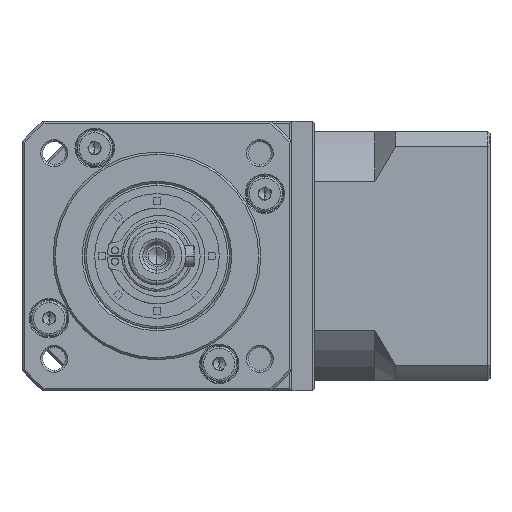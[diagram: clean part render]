
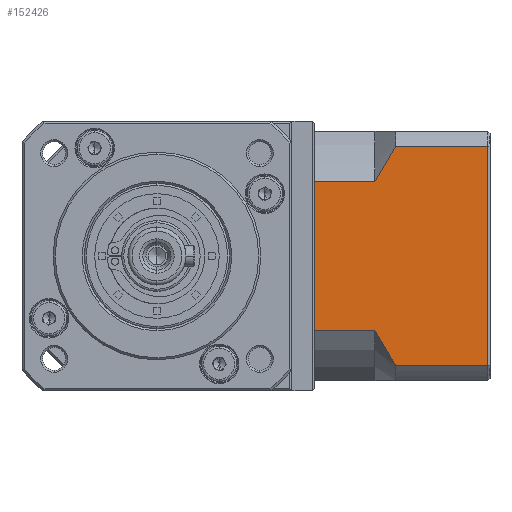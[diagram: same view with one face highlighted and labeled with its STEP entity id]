
A CAD part, left-side view. The second image highlights one B-rep face of the part: STEP entity #152426.
In plain terms, the highlighted planar face has unit normal (-1, 0, 0).
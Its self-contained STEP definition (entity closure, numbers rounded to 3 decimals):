
#3938 = CARTESIAN_POINT ( 'NONE',  ( -27.429, -66.234, -135.581 ) ) ;
#5166 = CARTESIAN_POINT ( 'NONE',  ( -27.429, -71.234, -91.095 ) ) ;
#7480 = LINE ( 'NONE', #126801, #37623 ) ;
#9024 = ORIENTED_EDGE ( 'NONE', *, *, #156918, .T. ) ;
#13133 = ORIENTED_EDGE ( 'NONE', *, *, #125260, .T. ) ;
#16891 = CARTESIAN_POINT ( 'NONE',  ( -27.429, -70.332, -142.648 ) ) ;
#27861 = EDGE_CURVE ( 'NONE', #142819, #131239, #56359, .T. ) ;
#28185 = AXIS2_PLACEMENT_3D ( 'NONE', #113704, #36679, #126611 ) ;
#31581 = CARTESIAN_POINT ( 'NONE',  ( -27.429, -66.234, -99.525 ) ) ;
#33004 = EDGE_CURVE ( 'NONE', #114003, #81299, #131226, .T. ) ;
#34861 = ORIENTED_EDGE ( 'NONE', *, *, #60358, .F. ) ;
#36593 = CARTESIAN_POINT ( 'NONE',  ( -27.429, -66.234, -144.01 ) ) ;
#36679 = DIRECTION ( 'NONE',  ( 1., 0., 0. ) ) ;
#36939 = EDGE_LOOP ( 'NONE', ( #34861, #160031, #48910, #13133, #126390, #9024, #123250, #75948 ) ) ;
#37623 = VECTOR ( 'NONE', #62768, 1000. ) ;
#41064 = VECTOR ( 'NONE', #158373, 1000. ) ;
#42228 = CARTESIAN_POINT ( 'NONE',  ( -27.429, -66.984, -137.037 ) ) ;
#42967 = LINE ( 'NONE', #36593, #111297 ) ;
#48910 = ORIENTED_EDGE ( 'NONE', *, *, #33004, .F. ) ;
#54501 = DIRECTION ( 'NONE',  ( 0., 1., 0. ) ) ;
#54960 = CARTESIAN_POINT ( 'NONE',  ( -27.429, -51.734, -99.525 ) ) ;
#56359 = B_SPLINE_CURVE_WITH_KNOTS ( 'NONE', 3,
 ( #3938, #42228, #145067, #93993, #16891, #106867 ),
 .UNSPECIFIED., .F., .F.,
 ( 4, 2, 4 ),
 ( 0.1, 0.104, 0.109 ),
 .UNSPECIFIED. ) ;
#59896 = DIRECTION ( 'NONE',  ( 0., -1., 0. ) ) ;
#60358 = EDGE_CURVE ( 'NONE', #109391, #131239, #42967, .T. ) ;
#62768 = DIRECTION ( 'NONE',  ( 0., 0., -1. ) ) ;
#64263 = CARTESIAN_POINT ( 'NONE',  ( -27.429, -66.234, -135.581 ) ) ;
#66066 = EDGE_CURVE ( 'NONE', #142819, #75761, #68179, .T. ) ;
#66465 = FACE_OUTER_BOUND ( 'NONE', #36939, .T. ) ;
#66822 = B_SPLINE_CURVE_WITH_KNOTS ( 'NONE', 3,
 ( #124647, #111208, #150538, #73588, #163507, #86520 ),
 .UNSPECIFIED., .F., .F.,
 ( 4, 2, 4 ),
 ( 0.052, 0.057, 0.062 ),
 .UNSPECIFIED. ) ;
#67233 = CARTESIAN_POINT ( 'NONE',  ( -27.429, -93.434, -147.553 ) ) ;
#68136 = LINE ( 'NONE', #67233, #102293 ) ;
#68179 = LINE ( 'NONE', #144455, #98313 ) ;
#73588 = CARTESIAN_POINT ( 'NONE',  ( -27.429, -67.785, -96.642 ) ) ;
#74681 = CARTESIAN_POINT ( 'NONE',  ( -27.429, -51.734, -135.581 ) ) ;
#75761 = VERTEX_POINT ( 'NONE', #74681 ) ;
#75948 = ORIENTED_EDGE ( 'NONE', *, *, #27861, .T. ) ;
#79560 = CARTESIAN_POINT ( 'NONE',  ( -27.429, -93.434, -144.01 ) ) ;
#81299 = VERTEX_POINT ( 'NONE', #162349 ) ;
#86520 = CARTESIAN_POINT ( 'NONE',  ( -27.429, -66.234, -99.525 ) ) ;
#93409 = LINE ( 'NONE', #132481, #41064 ) ;
#93993 = CARTESIAN_POINT ( 'NONE',  ( -27.429, -69.458, -141.268 ) ) ;
#98313 = VECTOR ( 'NONE', #54501, 1000. ) ;
#100294 = EDGE_CURVE ( 'NONE', #125402, #111092, #93409, .T. ) ;
#102293 = VECTOR ( 'NONE', #107674, 1000. ) ;
#106867 = CARTESIAN_POINT ( 'NONE',  ( -27.429, -71.234, -144.01 ) ) ;
#107674 = DIRECTION ( 'NONE',  ( 0., 0., 1. ) ) ;
#109391 = VERTEX_POINT ( 'NONE', #79560 ) ;
#110646 = EDGE_CURVE ( 'NONE', #109391, #81299, #68136, .T. ) ;
#111092 = VERTEX_POINT ( 'NONE', #31581 ) ;
#111208 = CARTESIAN_POINT ( 'NONE',  ( -27.429, -70.334, -92.455 ) ) ;
#111297 = VECTOR ( 'NONE', #126530, 1000. ) ;
#113704 = CARTESIAN_POINT ( 'NONE',  ( -27.429, -93.934, -147.553 ) ) ;
#114003 = VERTEX_POINT ( 'NONE', #5166 ) ;
#123250 = ORIENTED_EDGE ( 'NONE', *, *, #66066, .F. ) ;
#124647 = CARTESIAN_POINT ( 'NONE',  ( -27.429, -71.234, -91.095 ) ) ;
#125260 = EDGE_CURVE ( 'NONE', #114003, #111092, #66822, .T. ) ;
#125402 = VERTEX_POINT ( 'NONE', #54960 ) ;
#126048 = PLANE ( 'NONE',  #28185 ) ;
#126390 = ORIENTED_EDGE ( 'NONE', *, *, #100294, .F. ) ;
#126530 = DIRECTION ( 'NONE',  ( 0., 1., 0. ) ) ;
#126611 = DIRECTION ( 'NONE',  ( 0., 1., 0. ) ) ;
#126801 = CARTESIAN_POINT ( 'NONE',  ( -27.429, -51.734, -147.553 ) ) ;
#129571 = CARTESIAN_POINT ( 'NONE',  ( -27.429, -71.234, -144.01 ) ) ;
#131226 = LINE ( 'NONE', #149836, #165457 ) ;
#131239 = VERTEX_POINT ( 'NONE', #129571 ) ;
#132481 = CARTESIAN_POINT ( 'NONE',  ( -27.429, -66.234, -99.525 ) ) ;
#142819 = VERTEX_POINT ( 'NONE', #64263 ) ;
#144455 = CARTESIAN_POINT ( 'NONE',  ( -27.429, -66.234, -135.581 ) ) ;
#145067 = CARTESIAN_POINT ( 'NONE',  ( -27.429, -67.784, -138.463 ) ) ;
#149836 = CARTESIAN_POINT ( 'NONE',  ( -27.429, -66.234, -91.095 ) ) ;
#150538 = CARTESIAN_POINT ( 'NONE',  ( -27.429, -69.461, -93.834 ) ) ;
#152426 = ADVANCED_FACE ( 'NONE', ( #66465 ), #126048, .F. ) ;
#156918 = EDGE_CURVE ( 'NONE', #125402, #75761, #7480, .T. ) ;
#158373 = DIRECTION ( 'NONE',  ( 0., -1., 0. ) ) ;
#160031 = ORIENTED_EDGE ( 'NONE', *, *, #110646, .T. ) ;
#162349 = CARTESIAN_POINT ( 'NONE',  ( -27.429, -93.434, -91.095 ) ) ;
#163507 = CARTESIAN_POINT ( 'NONE',  ( -27.429, -66.982, -98.073 ) ) ;
#165457 = VECTOR ( 'NONE', #59896, 1000. ) ;
